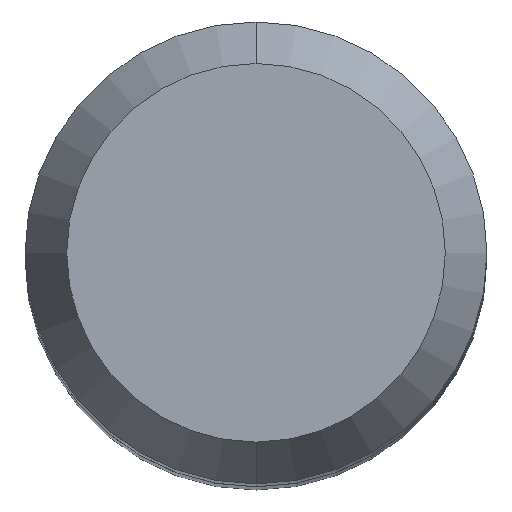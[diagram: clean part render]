
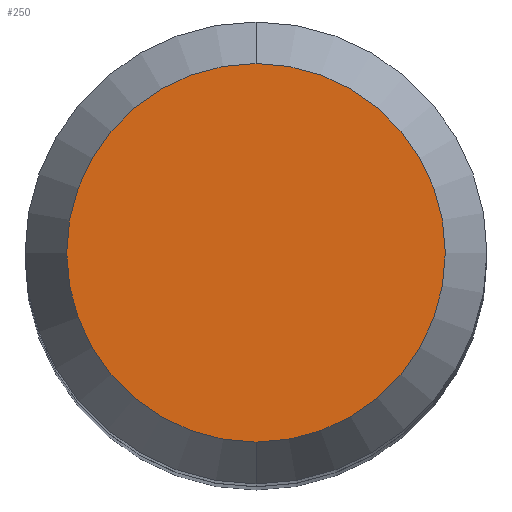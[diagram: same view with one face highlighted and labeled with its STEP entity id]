
A CAD part, top view. The second image highlights one B-rep face of the part: STEP entity #250.
In plain terms, the highlighted free-form (B-spline) face has degree [1, 1] with [2, 2] control points.
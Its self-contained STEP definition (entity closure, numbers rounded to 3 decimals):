
#37=CARTESIAN_POINT('',(0.,0.,0.));
#38=DIRECTION('',(0.,0.,1.));
#39=DIRECTION('',(0.,1.,0.));
#40=AXIS2_PLACEMENT_3D('',#37,#38,#39);
#42=CARTESIAN_POINT('',(0.,0.,0.));
#43=DIRECTION('',(0.,0.,-1.));
#44=DIRECTION('',(0.,1.,0.));
#45=AXIS2_PLACEMENT_3D('',#42,#43,#44);
#150=CARTESIAN_POINT('',(0.,6.557,0.));
#152=VERTEX_POINT('',#150);
#154=CARTESIAN_POINT('',(0.,-6.557,0.));
#156=VERTEX_POINT('',#154);
#241=CARTESIAN_POINT('',(6.82,6.819,0.));
#242=CARTESIAN_POINT('',(-6.82,6.819,0.));
#243=CARTESIAN_POINT('',(6.82,-6.819,0.));
#244=CARTESIAN_POINT('',(-6.82,-6.819,0.));
#245=B_SPLINE_SURFACE_WITH_KNOTS('',1,1,((#241,#242),(#243,#244)),.UNSPECIFIED.,
.F.,.F.,.F.,(2,2),(2,2),(-6.819,6.819),(-6.82,
6.82),.UNSPECIFIED.);
#246=ORIENTED_EDGE('',*,*,#226,.F.);
#247=ORIENTED_EDGE('',*,*,#194,.T.);
#248=EDGE_LOOP('',(#246,#247));
#249=FACE_OUTER_BOUND('',#248,.F.);
#41=CIRCLE('',#40,6.557);
#46=CIRCLE('',#45,6.557);
#194=EDGE_CURVE('',#152,#156,#46,.T.);
#226=EDGE_CURVE('',#152,#156,#41,.T.);
#250=ADVANCED_FACE('',(#249),#245,.F.);
